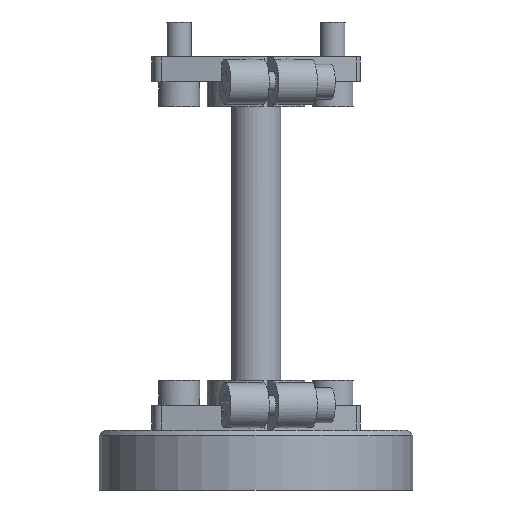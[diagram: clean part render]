
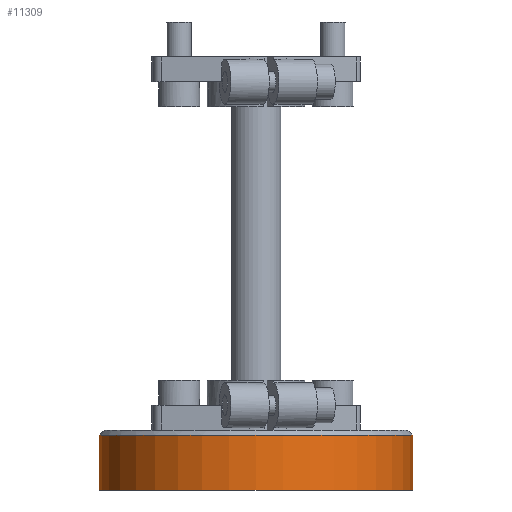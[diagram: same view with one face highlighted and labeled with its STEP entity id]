
A CAD part, front view. The second image highlights one B-rep face of the part: STEP entity #11309.
In plain terms, the highlighted cylindrical face has radius 31.5 mm (diameter 63 mm), a partial arc.
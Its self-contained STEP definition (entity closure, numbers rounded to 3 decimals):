
#697 = FACE_OUTER_BOUND ( 'NONE', #1453, .T. ) ;
#1007 = LINE ( 'NONE', #1836, #11545 ) ;
#1076 = VERTEX_POINT ( 'NONE', #12781 ) ;
#1453 = EDGE_LOOP ( 'NONE', ( #8217, #9752, #9136, #6177 ) ) ;
#1661 = CARTESIAN_POINT ( 'NONE',  ( 31.5, 0., 0. ) ) ;
#1696 = CARTESIAN_POINT ( 'NONE',  ( -31.5, 0., 0. ) ) ;
#1836 = CARTESIAN_POINT ( 'NONE',  ( -31.5, 0., 0. ) ) ;
#2161 = CYLINDRICAL_SURFACE ( 'NONE', #2598, 31.5 ) ;
#2598 = AXIS2_PLACEMENT_3D ( 'NONE', #8639, #11645, #7703 ) ;
#3197 = EDGE_CURVE ( 'NONE', #10008, #1076, #1007, .T. ) ;
#3472 = VERTEX_POINT ( 'NONE', #1661 ) ;
#3602 = DIRECTION ( 'NONE',  ( 0., 0., 1. ) ) ;
#3611 = EDGE_CURVE ( 'NONE', #10008, #3472, #7757, .T. ) ;
#4630 = DIRECTION ( 'NONE',  ( 0., 0., 1. ) ) ;
#5029 = DIRECTION ( 'NONE',  ( 1., 0., 0. ) ) ;
#5282 = DIRECTION ( 'NONE',  ( 0., 0., 1. ) ) ;
#5290 = CARTESIAN_POINT ( 'NONE',  ( 0., 0., 0. ) ) ;
#6177 = ORIENTED_EDGE ( 'NONE', *, *, #3197, .F. ) ;
#6255 = VECTOR ( 'NONE', #4630, 1000. ) ;
#7469 = AXIS2_PLACEMENT_3D ( 'NONE', #9669, #3602, #10701 ) ;
#7703 = DIRECTION ( 'NONE',  ( 0., 1., 0. ) ) ;
#7757 = CIRCLE ( 'NONE', #8196, 31.5 ) ;
#8196 = AXIS2_PLACEMENT_3D ( 'NONE', #5290, #5282, #5029 ) ;
#8216 = CIRCLE ( 'NONE', #7469, 31.5 ) ;
#8217 = ORIENTED_EDGE ( 'NONE', *, *, #3611, .T. ) ;
#8639 = CARTESIAN_POINT ( 'NONE',  ( 0., 0., 12. ) ) ;
#8957 = LINE ( 'NONE', #10715, #6255 ) ;
#9136 = ORIENTED_EDGE ( 'NONE', *, *, #10540, .F. ) ;
#9669 = CARTESIAN_POINT ( 'NONE',  ( 0., 0., 11. ) ) ;
#9752 = ORIENTED_EDGE ( 'NONE', *, *, #12558, .T. ) ;
#10008 = VERTEX_POINT ( 'NONE', #1696 ) ;
#10540 = EDGE_CURVE ( 'NONE', #1076, #11343, #8216, .T. ) ;
#10701 = DIRECTION ( 'NONE',  ( 1., 0., 0. ) ) ;
#10708 = CARTESIAN_POINT ( 'NONE',  ( 31.5, 0., 11. ) ) ;
#10715 = CARTESIAN_POINT ( 'NONE',  ( 31.5, 0., 0. ) ) ;
#11309 = ADVANCED_FACE ( 'NONE', ( #697 ), #2161, .T. ) ;
#11343 = VERTEX_POINT ( 'NONE', #10708 ) ;
#11545 = VECTOR ( 'NONE', #12983, 1000. ) ;
#11645 = DIRECTION ( 'NONE',  ( 0., 0., 1. ) ) ;
#12558 = EDGE_CURVE ( 'NONE', #3472, #11343, #8957, .T. ) ;
#12781 = CARTESIAN_POINT ( 'NONE',  ( -31.5, 0., 11. ) ) ;
#12983 = DIRECTION ( 'NONE',  ( 0., 0., 1. ) ) ;
